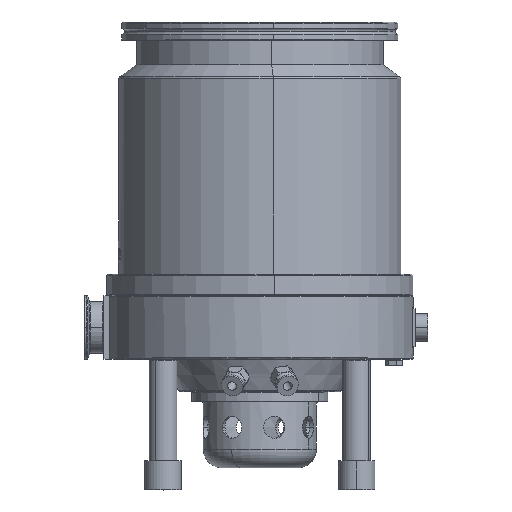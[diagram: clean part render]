
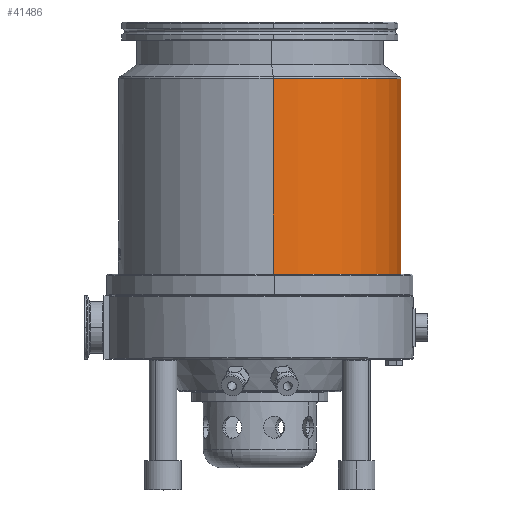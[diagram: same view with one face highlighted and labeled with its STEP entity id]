
A CAD part, top view. The second image highlights one B-rep face of the part: STEP entity #41486.
In plain terms, the highlighted cylindrical face has radius 122.5 mm (diameter 245 mm), a partial arc.
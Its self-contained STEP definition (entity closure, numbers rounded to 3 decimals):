
#5389 = VERTEX_POINT ( 'NONE', #5428 ) ;
#5428 = CARTESIAN_POINT ( 'NONE',  ( 0., 4.126, -122.5 ) ) ;
#8566 = EDGE_CURVE ( 'NONE', #5389, #36806, #27929, .T. ) ;
#8570 = EDGE_CURVE ( 'NONE', #36806, #46245, #28133, .T. ) ;
#8577 = EDGE_CURVE ( 'NONE', #46245, #44555, #28098, .T. ) ;
#8638 = EDGE_CURVE ( 'NONE', #5389, #44555, #28222, .T. ) ;
#10807 = CARTESIAN_POINT ( 'NONE',  ( 0., 0., 0. ) ) ;
#14615 = DIRECTION ( 'NONE',  ( 0., -1., 0. ) ) ;
#17732 = DIRECTION ( 'NONE',  ( 0., -1., 0. ) ) ;
#17781 = CARTESIAN_POINT ( 'NONE',  ( 0., 0., -122.5 ) ) ;
#17988 = DIRECTION ( 'NONE',  ( 0., 0., -1. ) ) ;
#18054 = DIRECTION ( 'NONE',  ( 0., 1., 0. ) ) ;
#18107 = CARTESIAN_POINT ( 'NONE',  ( 0., -165.483, 0. ) ) ;
#18444 = DIRECTION ( 'NONE',  ( 0., -1., 0. ) ) ;
#18496 = DIRECTION ( 'NONE',  ( 0., 0., -1. ) ) ;
#18549 = DIRECTION ( 'NONE',  ( 0., -1., 0. ) ) ;
#18559 = CARTESIAN_POINT ( 'NONE',  ( 0., 4.126, 0. ) ) ;
#18668 = CARTESIAN_POINT ( 'NONE',  ( 0., 0., 122.5 ) ) ;
#19513 = ORIENTED_EDGE ( 'NONE', *, *, #8566, .T. ) ;
#20809 = ORIENTED_EDGE ( 'NONE', *, *, #8570, .T. ) ;
#21007 = AXIS2_PLACEMENT_3D ( 'NONE', #18559, #18549, #18496 ) ;
#21791 = ORIENTED_EDGE ( 'NONE', *, *, #8577, .T. ) ;
#22759 = ORIENTED_EDGE ( 'NONE', *, *, #8638, .F. ) ;
#24389 = CARTESIAN_POINT ( 'NONE',  ( 0., -165.483, -122.5 ) ) ;
#25259 = AXIS2_PLACEMENT_3D ( 'NONE', #18107, #18054, #17988 ) ;
#27929 = CIRCLE ( 'NONE', #21007, 122.5 ) ;
#27976 = VECTOR ( 'NONE', #17732, 1000. ) ;
#28098 = CIRCLE ( 'NONE', #25259, 122.5 ) ;
#28133 = LINE ( 'NONE', #18668, #28170 ) ;
#28170 = VECTOR ( 'NONE', #18444, 1000. ) ;
#28222 = LINE ( 'NONE', #17781, #27976 ) ;
#29121 = DIRECTION ( 'NONE',  ( 0., 0., -1. ) ) ;
#31180 = AXIS2_PLACEMENT_3D ( 'NONE', #10807, #14615, #29121 ) ;
#36438 = CARTESIAN_POINT ( 'NONE',  ( 0., -165.483, 122.5 ) ) ;
#36806 = VERTEX_POINT ( 'NONE', #47030 ) ;
#41486 = ADVANCED_FACE ( 'NONE', ( #46195 ), #45960, .T. ) ;
#44555 = VERTEX_POINT ( 'NONE', #24389 ) ;
#45818 = EDGE_LOOP ( 'NONE', ( #19513, #20809, #21791, #22759 ) ) ;
#45960 = CYLINDRICAL_SURFACE ( 'NONE', #31180, 122.5 ) ;
#46195 = FACE_OUTER_BOUND ( 'NONE', #45818, .T. ) ;
#46245 = VERTEX_POINT ( 'NONE', #36438 ) ;
#47030 = CARTESIAN_POINT ( 'NONE',  ( 0., 4.126, 122.5 ) ) ;
